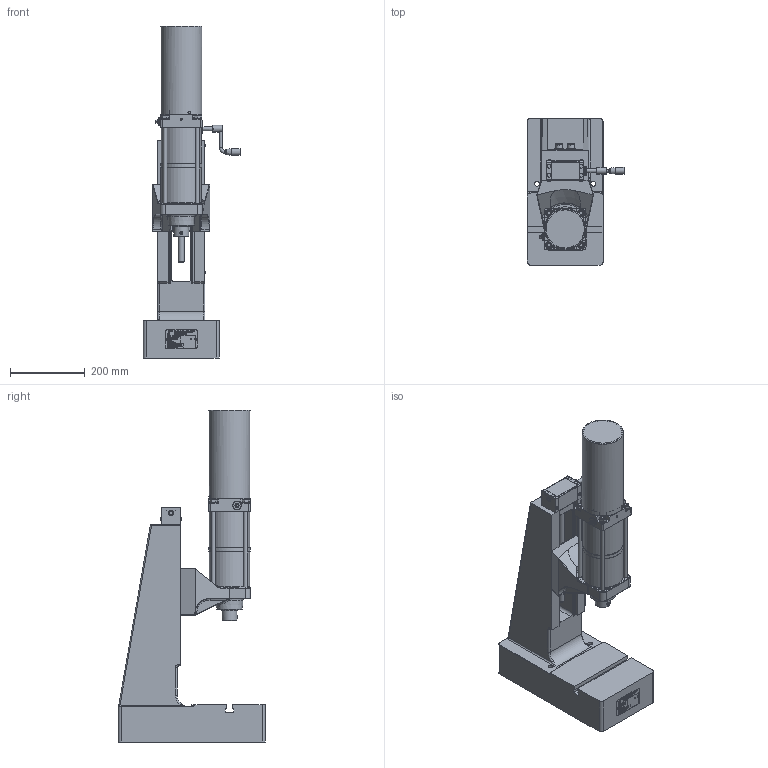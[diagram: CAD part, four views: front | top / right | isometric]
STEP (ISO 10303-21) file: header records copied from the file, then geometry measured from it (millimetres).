
FILE_DESCRIPTION(/* description */ ('Bausatz Ständer T4N HV-OST'),/* implementation_level */ '2;1');
FILE_NAME(/* name */ 'B:\02_CAD_oeffentlich\CAD_3D_oeffentlich_step\Druckluftpresse\DRP_0850_060_130.stp',/* time_stamp */ '2017-08-22T07:13:49+02:00',/* author */ ('Finsterle'),/* organization */ (''),/* preprocessor_version */ 'ST-DEVELOPER v16.1',/* originating_system */ 'Autodesk Inventor 2016',/* authorisation */ '');
FILE_SCHEMA (('AUTOMOTIVE_DESIGN { 1 0 10303 214 3 1 1 }'));
Products named in the file (5): ENG-000753-1_V; ENG-001022_V; HBF-000760; ENG-000755; HBF-001036_V
Assembly tree (5 placements, depth 2):
  HBF-001036_V
    ENG-000753-1_V
    ENG-001022_V
    HBF-000760
    ENG-000755  x2
Bounding box: 259.79 x 393.8 x 886.42 mm (x, y, z)
Volume: 11610865.2 mm3; surface area: 1499214.7 mm2
Topology: 6 solids, 16 shells, 7543 faces, 20455 edges, 13373 vertices
Faces by surface type: plane 4574, bspline 2104, cylinder 465, cone 224, torus 101, sphere 75
Full cylindrical faces by diameter (mm): 1 x1, 2 x1, 2.4 x3, 2.459 x2, 3 x7, 3.242 x7, 3.5 x2, 3.65 x4, 4 x6, 4.134 x1, 4.5 x4, 4.917 x6, 5 x3, 6.2 x4, 6.5 x2, 6.647 x1, 8 x7, 8.4 x1, 8.5 x1, 10 x7, 10.02 x1, 10.106 x2, 10.5 x12, 11.8 x2, 12 x7, 13 x8, 13.5 x4, 14 x3, 14.376 x2, 14.95 x3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
Entity records: 256468 total; most frequent: CARTESIAN_POINT 75564, ORIENTED_EDGE 39762, DIRECTION 27698, EDGE_CURVE 19868, LINE 13922, VECTOR 13922, VERTEX_POINT 13244, EDGE_LOOP 8490
